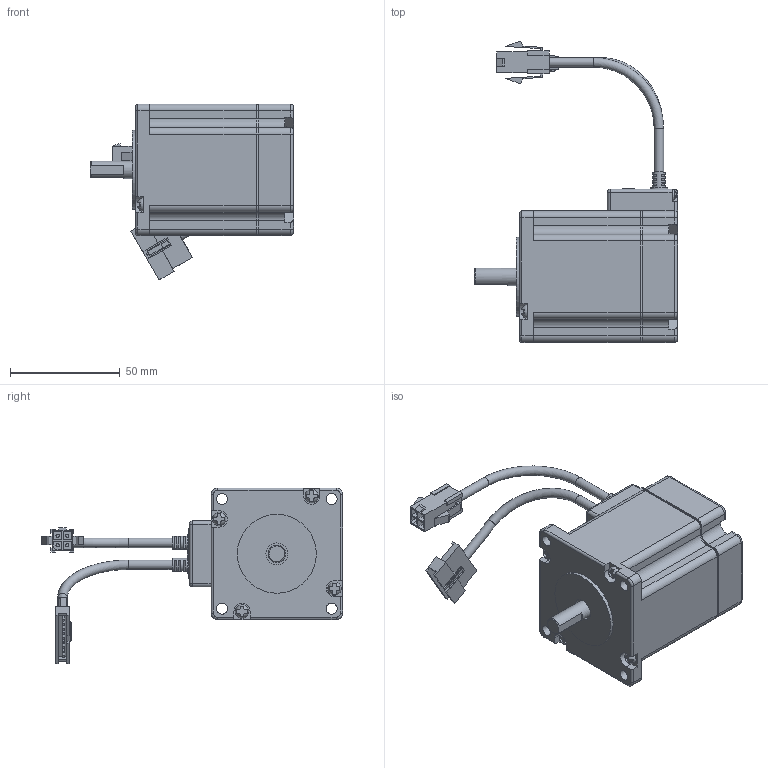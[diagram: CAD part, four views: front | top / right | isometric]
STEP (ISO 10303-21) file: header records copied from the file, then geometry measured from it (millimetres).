
FILE_DESCRIPTION(/* description */ (''),/* implementation_level */ '2;1');
FILE_NAME(/* name */ '\\EMN0D5F01\rp_inventor\RP Mechanical Design\Wiley\Updated Models\eCLM-S602F.stp',/* time_stamp */ '2016-10-27T15:57:17-07:00',/* author */ ('JDB'),/* organization */ ('Parker Hannifin Corp'),/* preprocessor_version */ 'ST-DEVELOPER v15.2',/* originating_system */ 'Autodesk Inventor 2014',/* authorisation */ '');
FILE_SCHEMA (('CONFIG_CONTROL_DESIGN'));
Products named in the file (1): eCLM-S602F_sw
Bounding box: 92.6 x 137.41 x 80.22 mm (x, y, z)
Volume: 208001.8 mm3; surface area: 47932.4 mm2
Topology: 3 solids, 3 shells, 4043 faces, 11766 edges, 7801 vertices
Faces by surface type: plane 3719, cylinder 200, bspline 52, cone 34, torus 26, sphere 12
Full cylindrical faces by diameter (mm): 1 x9, 1.5 x4, 1.6 x4, 2.1 x4, 2.3 x2, 2.4 x7, 4 x5, 4.3 x4, 5 x5, 6 x4, 8 x3, 9.2 x1, 10 x1, 17.5 x1, 36 x1
Entity records: 131214 total; most frequent: CARTESIAN_POINT 24640, ORIENTED_EDGE 23316, DIRECTION 20163, EDGE_CURVE 11656, LINE 10811, VECTOR 10811, VERTEX_POINT 7768, AXIS2_PLACEMENT_3D 4676
